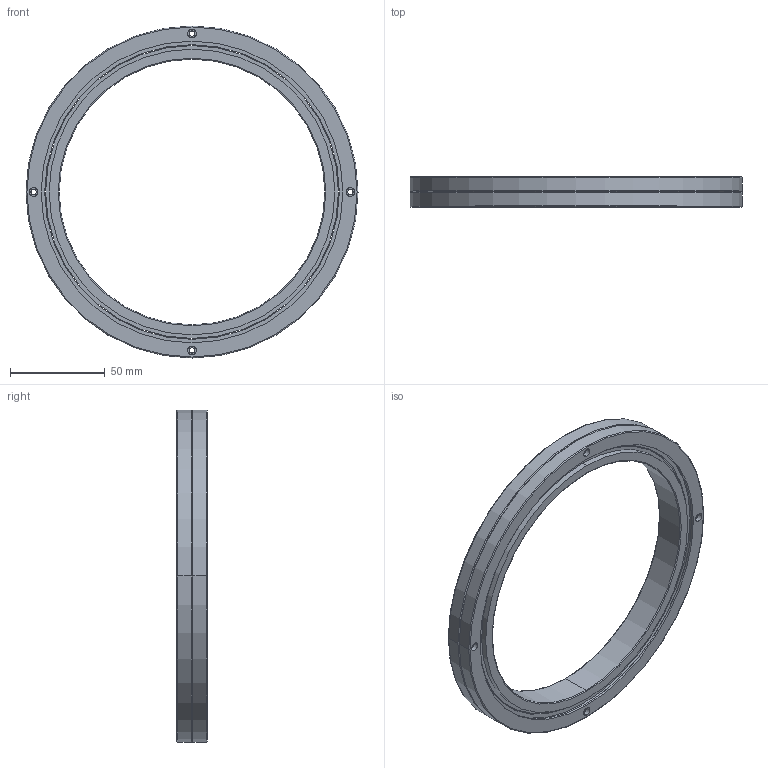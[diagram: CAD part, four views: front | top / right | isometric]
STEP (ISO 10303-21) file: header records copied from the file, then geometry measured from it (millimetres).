
FILE_DESCRIPTION((''),'2;1');
FILE_NAME('RB14016','2015-07-18T',('Administrator'),(''),'PRO/ENGINEER BY PARAMETRIC TECHNOLOGY CORPORATION, 2010180','PRO/ENGINEER BY PARAMETRIC TECHNOLOGY CORPORATION, 2010180','');
FILE_SCHEMA(('AUTOMOTIVE_DESIGN_CC2 { 1 2 10303 214 -1 1 5 2 }'));
Length unit declared in the file: millimetre
Products named in the file (1): RB14016
Bounding box: 175 x 16 x 175 mm (x, y, z)
Volume: 111929.2 mm3; surface area: 52181.5 mm2
Topology: 2 solids, 2 shells, 88 faces, 184 edges, 114 vertices
Faces by surface type: cylinder 50, plane 18, cone 12, torus 8
Entity records: 2497 total; most frequent: DIRECTION 482, CARTESIAN_POINT 386, ORIENTED_EDGE 368, AXIS2_PLACEMENT_3D 210, EDGE_CURVE 184, CIRCLE 122, VERTEX_POINT 114, EDGE_LOOP 114
